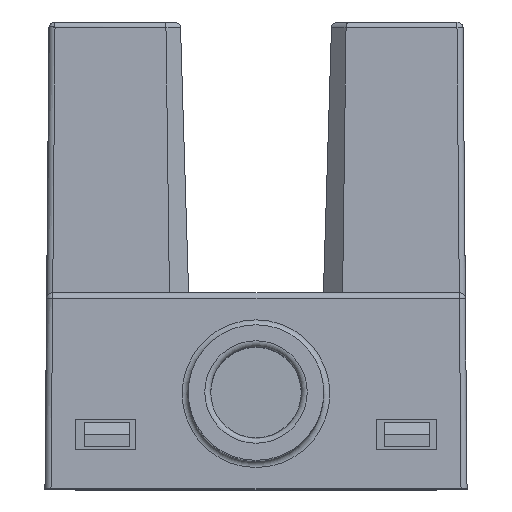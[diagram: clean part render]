
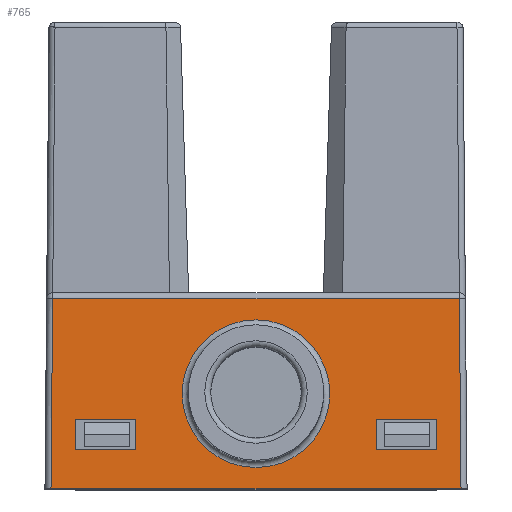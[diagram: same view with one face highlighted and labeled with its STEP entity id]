
A CAD part, top view. The second image highlights one B-rep face of the part: STEP entity #765.
In plain terms, the highlighted planar face has unit normal (0, 0.018, 1).
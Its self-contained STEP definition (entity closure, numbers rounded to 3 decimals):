
#277=FACE_BOUND('',#1921,.T.);
#278=FACE_BOUND('',#1922,.T.);
#279=FACE_BOUND('',#1923,.T.);
#280=FACE_BOUND('',#1924,.T.);
#459=CIRCLE('',#8243,2.45);
#765=ADVANCED_FACE('',(#277,#278,#279,#280),#1127,.T.);
#1127=PLANE('',#8244);
#1921=EDGE_LOOP('',(#3468));
#1922=EDGE_LOOP('',(#3469,#3470,#3471,#3472));
#1923=EDGE_LOOP('',(#3473,#3474,#3475,#3476));
#1924=EDGE_LOOP('',(#3477,#3478,#3479,#3480));
#3468=ORIENTED_EDGE('',*,*,#5692,.T.);
#3469=ORIENTED_EDGE('',*,*,#5691,.F.);
#3470=ORIENTED_EDGE('',*,*,#5604,.F.);
#3471=ORIENTED_EDGE('',*,*,#5686,.F.);
#3472=ORIENTED_EDGE('',*,*,#5562,.F.);
#3473=ORIENTED_EDGE('',*,*,#5601,.T.);
#3474=ORIENTED_EDGE('',*,*,#5677,.T.);
#3475=ORIENTED_EDGE('',*,*,#5557,.T.);
#3476=ORIENTED_EDGE('',*,*,#5682,.T.);
#3477=ORIENTED_EDGE('',*,*,#5693,.T.);
#3478=ORIENTED_EDGE('',*,*,#5694,.T.);
#3479=ORIENTED_EDGE('',*,*,#5695,.T.);
#3480=ORIENTED_EDGE('',*,*,#5696,.T.);
#4646=VERTEX_POINT('',#11748);
#4647=VERTEX_POINT('',#11750);
#4648=VERTEX_POINT('',#11754);
#4651=VERTEX_POINT('',#11759);
#4684=VERTEX_POINT('',#11843);
#4685=VERTEX_POINT('',#11845);
#4686=VERTEX_POINT('',#11849);
#4688=VERTEX_POINT('',#11852);
#4740=VERTEX_POINT('',#12055);
#4741=VERTEX_POINT('',#12057);
#4742=VERTEX_POINT('',#12058);
#4743=VERTEX_POINT('',#12060);
#4744=VERTEX_POINT('',#12062);
#5557=EDGE_CURVE('',#4647,#4646,#6551,.T.);
#5562=EDGE_CURVE('',#4651,#4648,#6556,.T.);
#5601=EDGE_CURVE('',#4685,#4684,#6591,.T.);
#5604=EDGE_CURVE('',#4686,#4688,#6594,.T.);
#5677=EDGE_CURVE('',#4684,#4647,#6649,.T.);
#5682=EDGE_CURVE('',#4646,#4685,#6654,.T.);
#5686=EDGE_CURVE('',#4648,#4686,#6658,.T.);
#5691=EDGE_CURVE('',#4688,#4651,#6663,.T.);
#5692=EDGE_CURVE('',#4740,#4740,#459,.T.);
#5693=EDGE_CURVE('',#4741,#4742,#6664,.T.);
#5694=EDGE_CURVE('',#4742,#4743,#6665,.T.);
#5695=EDGE_CURVE('',#4743,#4744,#6666,.T.);
#5696=EDGE_CURVE('',#4744,#4741,#6667,.T.);
#6551=LINE('',#11749,#7471);
#6556=LINE('',#11760,#7476);
#6591=LINE('',#11844,#7511);
#6594=LINE('',#11851,#7514);
#6649=LINE('',#12027,#7569);
#6654=LINE('',#12036,#7574);
#6658=LINE('',#12043,#7578);
#6663=LINE('',#12052,#7583);
#6664=LINE('',#12056,#7584);
#6665=LINE('',#12059,#7585);
#6666=LINE('',#12061,#7586);
#6667=LINE('',#12063,#7587);
#7471=VECTOR('',#9601,1.);
#7476=VECTOR('',#9608,1.);
#7511=VECTOR('',#9675,1.);
#7514=VECTOR('',#9680,1.);
#7569=VECTOR('',#9813,1.);
#7574=VECTOR('',#9822,1.);
#7578=VECTOR('',#9828,1.);
#7583=VECTOR('',#9837,1.);
#7584=VECTOR('',#9842,1.);
#7585=VECTOR('',#9843,1.);
#7586=VECTOR('',#9844,1.);
#7587=VECTOR('',#9845,1.);
#8243=AXIS2_PLACEMENT_3D('',#12054,#9840,#9841);
#8244=AXIS2_PLACEMENT_3D('',#12064,#9846,#9847);
#9601=DIRECTION('',(-1.,0.,0.));
#9608=DIRECTION('',(1.,0.,0.));
#9675=DIRECTION('',(1.,0.,0.));
#9680=DIRECTION('',(-1.,0.,0.));
#9813=DIRECTION('',(0.,-1.,0.017));
#9822=DIRECTION('',(0.,1.,-0.017));
#9828=DIRECTION('',(0.,1.,-0.017));
#9837=DIRECTION('',(0.,-1.,0.017));
#9840=DIRECTION('',(0.,-0.017,-1.));
#9841=DIRECTION('',(0.,-1.,0.017));
#9842=DIRECTION('',(-0.009,1.,-0.017));
#9843=DIRECTION('',(-1.,0.,0.));
#9844=DIRECTION('',(-0.009,-1.,0.017));
#9845=DIRECTION('',(1.,0.,0.));
#9846=DIRECTION('',(0.,0.017,1.));
#9847=DIRECTION('',(0.,-1.,0.017));
#11748=CARTESIAN_POINT('',(14.973,-11.3,15.06));
#11749=CARTESIAN_POINT('',(16.973,-11.3,15.06));
#11750=CARTESIAN_POINT('',(16.973,-11.3,15.06));
#11754=CARTESIAN_POINT('',(26.973,-11.3,15.06));
#11759=CARTESIAN_POINT('',(24.973,-11.3,15.06));
#11760=CARTESIAN_POINT('',(24.973,-11.3,15.06));
#11843=CARTESIAN_POINT('',(16.973,-10.3,15.043));
#11844=CARTESIAN_POINT('',(14.973,-10.3,15.043));
#11845=CARTESIAN_POINT('',(14.973,-10.3,15.043));
#11849=CARTESIAN_POINT('',(26.973,-10.3,15.043));
#11851=CARTESIAN_POINT('',(26.973,-10.3,15.043));
#11852=CARTESIAN_POINT('',(24.973,-10.3,15.043));
#12027=CARTESIAN_POINT('',(16.973,-10.3,15.043));
#12036=CARTESIAN_POINT('',(14.973,-11.3,15.06));
#12043=CARTESIAN_POINT('',(26.973,-11.3,15.06));
#12052=CARTESIAN_POINT('',(24.973,-10.3,15.043));
#12054=CARTESIAN_POINT('',(20.973,-9.45,15.028));
#12055=CARTESIAN_POINT('',(20.973,-11.9,15.071));
#12056=CARTESIAN_POINT('',(27.744,-9.293,15.025));
#12057=CARTESIAN_POINT('',(27.773,-12.6,15.083));
#12058=CARTESIAN_POINT('',(27.718,-6.297,14.973));
#12059=CARTESIAN_POINT('',(21.273,-6.297,14.973));
#12060=CARTESIAN_POINT('',(14.228,-6.297,14.973));
#12061=CARTESIAN_POINT('',(14.173,-12.602,15.083));
#12062=CARTESIAN_POINT('',(14.173,-12.6,15.083));
#12063=CARTESIAN_POINT('',(27.398,-12.6,15.083));
#12064=CARTESIAN_POINT('',(21.273,-9.35,15.026));
